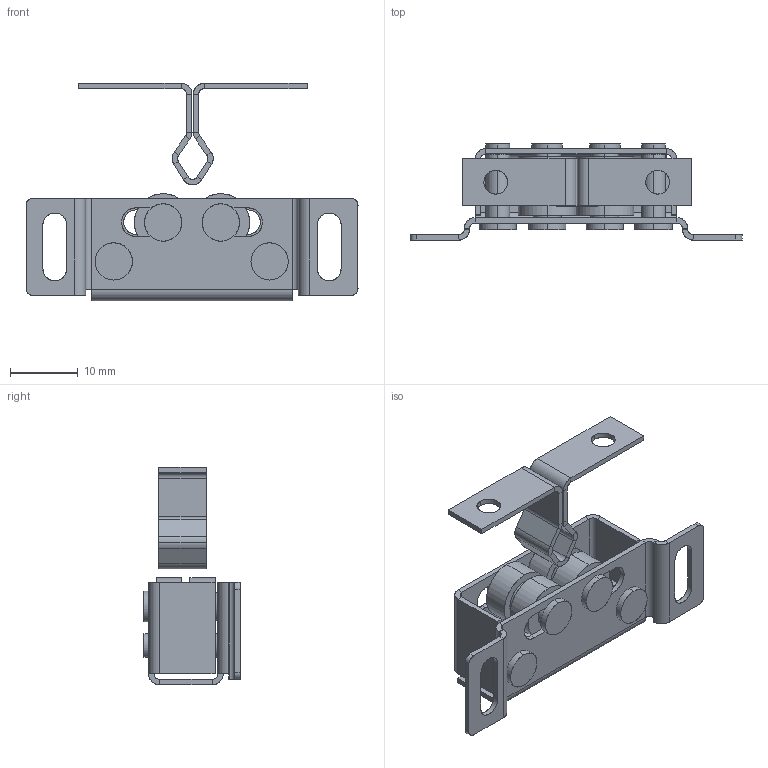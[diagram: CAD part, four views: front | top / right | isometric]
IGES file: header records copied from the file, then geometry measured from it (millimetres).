
Start section: SolidWorks IGES file using analytic representation for surfaces
Global section: file name: E:\DATA FOLDER FOR WEB-2015\'B' SECTION\Final IGS\DML-3014-SS.IGS; native system: SolidWorks 2015; preprocessor: SolidWorks 2015; author: solidworksqc; date: 151206.090203; units: millimetre
Bounding box: 49 x 14.2 x 32.1 mm (x, y, z)
Surface area: 5908.3 mm2 (no closed solid volume)
Topology: 0 solids, 0 shells, 236 faces, 3020 edges, 3012 vertices
Faces by surface type: bspline 136, revolution 100
